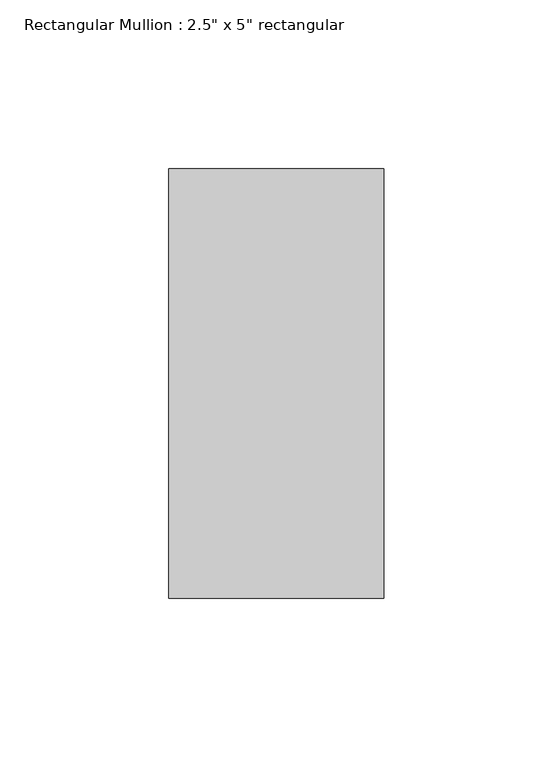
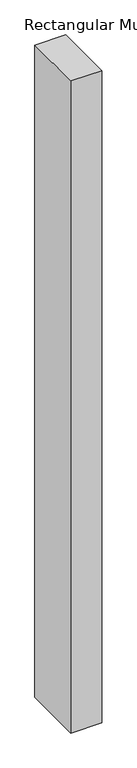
"""IFC4 building model written with IfcOpenShell, lengths in millimetres: member geometry."""

from ifc_helpers import new_model, si_unit, frame, origin, place, context, project, spatial, polyline, outline, extrude, source, transform, mapped, element, save


def member_8f908b75(model_context):
    return source(origin(), model_context, "Body", "SweptSolid", [
        extrude(outline(polyline([(0.0, 63.5), (0.0, -63.5), (-63.5, -63.5), (-63.5, 63.5), (0.0, 63.5)])), frame((0.0, 0.0, -1410.2226312), z_axis=(0.0, 0.0, 1.0), x_axis=(1.0, 0.0, 0.0)), (0.0, 0.0, 1.0), 1410.2226312),
    ])


if __name__ == "__main__":
    model = new_model("IFC4")
    model_context = context("Model", 3, world=origin())
    ifc_project = project(units=[si_unit("LENGTHUNIT", "METRE", prefix="MILLI")], contexts=[model_context])
    site = spatial("IfcSite", under=ifc_project)
    building = spatial("IfcBuilding", under=site)
    placement = place(None, origin())
    member_shape = member_8f908b75(model_context)
    element("IfcMember", 1, ObjectType="Rectangular Mullion : 2.5\" x 5\" rectangular", at=placement, inside=building, context=model_context, shape_type="MappedRepresentation", body=[
        mapped(member_shape, transform((0.0, 0.0, 0.0), x_axis=(1.0, 0.0, 0.0), y_axis=(0.0, 1.0, 0.0), z_axis=(0.0, 0.0, 1.0))),
    ])
    save(model, "model.ifc")
